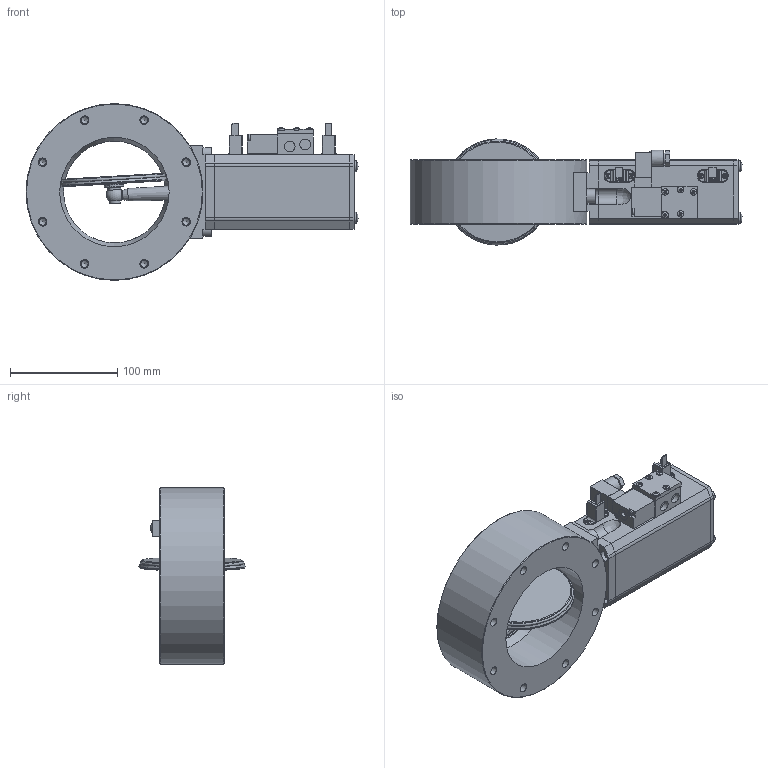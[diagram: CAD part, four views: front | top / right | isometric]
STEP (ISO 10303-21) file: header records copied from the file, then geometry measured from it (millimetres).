
FILE_DESCRIPTION(/* description */ (''),/* implementation_level */ '2;1');
FILE_NAME(/* name */ '1562923766_203.stp',/* time_stamp */ '2010-10-13T08:34:32+02:00',/* author */ (''),/* organization */ (''),/* preprocessor_version */ 'ST-DEVELOPER v11',/* originating_system */ 'SIEMENS UGS NX 6.0',/* authorisation */ '');
FILE_SCHEMA (('CONFIG_CONTROL_DESIGN'));
Length unit declared in the file: millimetre
Products named in the file (33): 227430.1; N-8409-200.3; 92571-01.2; N-6089-308.1; 336404; 227328.2; 227452.1; N-6024-515.1; 227450.1; N-7557-016_1.1; N-7557-018.1; N-7557-016_2.1; N-7557-016_3.1; N-6024-524.1; N-5018-005.1; 365072; 372221; 224223.6; 223892.5; 224374.6; 233106.4; 224315.3; 233137.1; 225582.1; N-6005-474.1; 224828.2; N-6013-443.2; 227117.3; 226699_NX-ARRAGMNTZUSAMMENST1; 94800-r1.7_NX-ARRAGMNTKONFIG4; 372317_MODEL; 336413_NX-ARRAGMNTZUSAMMENST1; 372889
Assembly tree (47 placements, depth 4):
  372889
    N-6013-443.2  x4
    224828.2  x2
    N-6005-474.1
    225582.1  x4
    233137.1
    224315.3
    233106.4
    224374.6
    223892.5
    224223.6
    336413_NX-ARRAGMNTZUSAMMENST1
      372317_MODEL
        336404
        N-6089-308.1
      372221
      365072
    94800-r1.7_NX-ARRAGMNTKONFIG4
      N-5018-005.1  x2
      N-6024-524.1  x6
      N-7557-016_3.1
      N-7557-016_2.1
      N-7557-018.1
      N-7557-016_1.1
    226699_NX-ARRAGMNTZUSAMMENST1  x2
      227450.1
      N-6024-515.1
      227452.1
      227328.2
      227117.3
        92571-01.2
        N-8409-200.3
        227430.1
Bounding box: 309.7 x 98.96 x 165 mm (x, y, z)
Volume: 1229299.9 mm3; surface area: 250147.7 mm2
Topology: 55 solids, 55 shells, 1454 faces, 3592 edges, 2343 vertices
Faces by surface type: plane 916, cylinder 378, cone 86, bspline 29, sphere 25, torus 16, extrusion 4
Full cylindrical faces by diameter (mm): 0.4 x4, 0.6 x4, 1.1 x4, 1.2 x2, 2 x6, 2.2 x4, 2.5 x10, 2.7 x2, 2.9 x4, 3 x11, 3.2 x4, 3.3 x4, 3.4 x4, 3.5 x4, 4 x13, 4.4 x12, 4.96 x1, 5 x20, 5.006 x1, 5.4 x8, 6 x12, 6.3 x1, 6.4 x12, 6.66 x2, 6.7 x2, 6.8 x2, 6.9 x1, 7.008 x1, 7.3 x2, 7.5 x5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
Entity records: 31819 total; most frequent: CARTESIAN_POINT 6085, DIRECTION 4488, ORIENTED_EDGE 3994, EDGE_CURVE 1997, AXIS2_PLACEMENT_3D 1689, VERTEX_POINT 1500, EDGE_LOOP 1427, VECTOR 1110
